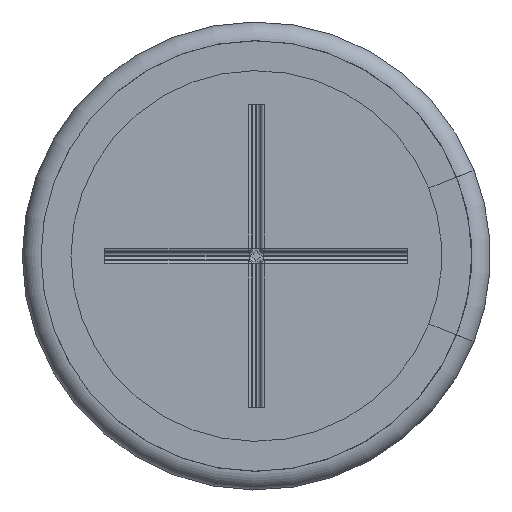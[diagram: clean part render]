
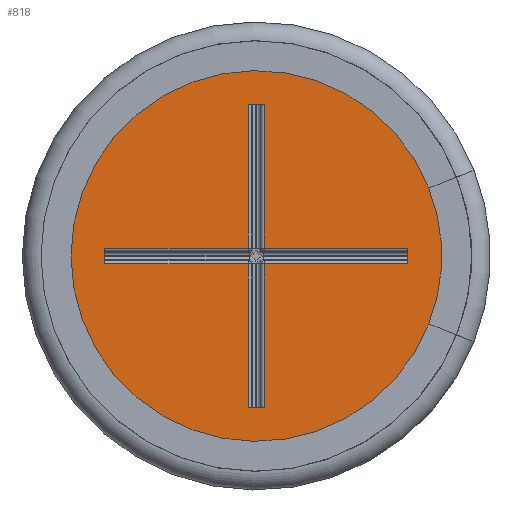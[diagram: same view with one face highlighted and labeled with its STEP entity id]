
A CAD part, front view. The second image highlights one B-rep face of the part: STEP entity #818.
In plain terms, the highlighted planar face has unit normal (0, -1, 0).
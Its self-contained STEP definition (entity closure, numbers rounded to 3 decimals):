
#144=FACE_BOUND('',#1121,.T.);
#145=FACE_BOUND('',#1122,.T.);
#769=PLANE('',#2869);
#818=ADVANCED_FACE('',(#144,#145),#769,.F.);
#1121=EDGE_LOOP('',(#1621,#1622,#1623,#1624,#1625,#1626,#1627,#1628,#1629,
#1630,#1631,#1632));
#1122=EDGE_LOOP('',(#1633));
#1271=LINE('',#4003,#1395);
#1272=LINE('',#4006,#1396);
#1273=LINE('',#4008,#1397);
#1274=LINE('',#4010,#1398);
#1275=LINE('',#4012,#1399);
#1276=LINE('',#4014,#1400);
#1277=LINE('',#4016,#1401);
#1278=LINE('',#4018,#1402);
#1279=LINE('',#4020,#1403);
#1280=LINE('',#4022,#1404);
#1281=LINE('',#4024,#1405);
#1282=LINE('',#4026,#1406);
#1395=VECTOR('',#3272,1.);
#1396=VECTOR('',#3273,1.);
#1397=VECTOR('',#3274,1.);
#1398=VECTOR('',#3275,1.);
#1399=VECTOR('',#3276,1.);
#1400=VECTOR('',#3277,1.);
#1401=VECTOR('',#3278,1.);
#1402=VECTOR('',#3279,1.);
#1403=VECTOR('',#3280,1.);
#1404=VECTOR('',#3281,1.);
#1405=VECTOR('',#3282,1.);
#1406=VECTOR('',#3283,1.);
#1621=ORIENTED_EDGE('',*,*,#2385,.F.);
#1622=ORIENTED_EDGE('',*,*,#2386,.T.);
#1623=ORIENTED_EDGE('',*,*,#2387,.T.);
#1624=ORIENTED_EDGE('',*,*,#2388,.F.);
#1625=ORIENTED_EDGE('',*,*,#2389,.T.);
#1626=ORIENTED_EDGE('',*,*,#2390,.T.);
#1627=ORIENTED_EDGE('',*,*,#2391,.T.);
#1628=ORIENTED_EDGE('',*,*,#2392,.T.);
#1629=ORIENTED_EDGE('',*,*,#2393,.T.);
#1630=ORIENTED_EDGE('',*,*,#2394,.T.);
#1631=ORIENTED_EDGE('',*,*,#2395,.T.);
#1632=ORIENTED_EDGE('',*,*,#2396,.T.);
#1633=ORIENTED_EDGE('',*,*,#2397,.T.);
#2165=VERTEX_POINT('',#4004);
#2166=VERTEX_POINT('',#4005);
#2167=VERTEX_POINT('',#4007);
#2168=VERTEX_POINT('',#4009);
#2169=VERTEX_POINT('',#4011);
#2170=VERTEX_POINT('',#4013);
#2171=VERTEX_POINT('',#4015);
#2172=VERTEX_POINT('',#4017);
#2173=VERTEX_POINT('',#4019);
#2174=VERTEX_POINT('',#4021);
#2175=VERTEX_POINT('',#4023);
#2176=VERTEX_POINT('',#4025);
#2177=VERTEX_POINT('',#4028);
#2385=EDGE_CURVE('',#2165,#2166,#1271,.T.);
#2386=EDGE_CURVE('',#2165,#2167,#1272,.T.);
#2387=EDGE_CURVE('',#2167,#2168,#1273,.T.);
#2388=EDGE_CURVE('',#2169,#2168,#1274,.T.);
#2389=EDGE_CURVE('',#2169,#2170,#1275,.T.);
#2390=EDGE_CURVE('',#2170,#2171,#1276,.T.);
#2391=EDGE_CURVE('',#2171,#2172,#1277,.T.);
#2392=EDGE_CURVE('',#2172,#2173,#1278,.T.);
#2393=EDGE_CURVE('',#2173,#2174,#1279,.T.);
#2394=EDGE_CURVE('',#2174,#2175,#1280,.T.);
#2395=EDGE_CURVE('',#2175,#2176,#1281,.T.);
#2396=EDGE_CURVE('',#2176,#2166,#1282,.T.);
#2397=EDGE_CURVE('',#2177,#2177,#2669,.T.);
#2669=CIRCLE('',#2868,5.75);
#2868=AXIS2_PLACEMENT_3D('',#4027,#3284,#3285);
#2869=AXIS2_PLACEMENT_3D('',#4029,#3286,#3287);
#3272=DIRECTION('',(-1.,0.,0.));
#3273=DIRECTION('',(0.,0.,-1.));
#3274=DIRECTION('',(1.,0.,0.));
#3275=DIRECTION('',(0.,0.,1.));
#3276=DIRECTION('',(-1.,0.,0.));
#3277=DIRECTION('',(0.,0.,-1.));
#3278=DIRECTION('',(-1.,0.,0.));
#3279=DIRECTION('',(0.,0.,1.));
#3280=DIRECTION('',(-1.,0.,0.));
#3281=DIRECTION('',(0.,0.,1.));
#3282=DIRECTION('',(1.,0.,0.));
#3283=DIRECTION('',(0.,0.,1.));
#3284=DIRECTION('',(0.,-1.,0.));
#3285=DIRECTION('',(0.,0.,-1.));
#3286=DIRECTION('',(0.,1.,0.));
#3287=DIRECTION('',(0.,0.,1.));
#4003=CARTESIAN_POINT('',(0.15,0.1,4.05));
#4004=CARTESIAN_POINT('',(0.212,0.1,4.05));
#4005=CARTESIAN_POINT('',(-0.212,0.1,4.05));
#4006=CARTESIAN_POINT('',(0.212,0.1,5.75));
#4007=CARTESIAN_POINT('',(0.212,0.1,0.212));
#4008=CARTESIAN_POINT('',(0.,0.1,0.212));
#4009=CARTESIAN_POINT('',(4.05,0.1,0.212));
#4010=CARTESIAN_POINT('',(4.05,0.1,-0.15));
#4011=CARTESIAN_POINT('',(4.05,0.1,-0.212));
#4012=CARTESIAN_POINT('',(0.,0.1,-0.212));
#4013=CARTESIAN_POINT('',(0.212,0.1,-0.212));
#4014=CARTESIAN_POINT('',(0.212,0.1,5.75));
#4015=CARTESIAN_POINT('',(0.212,0.1,-4.05));
#4016=CARTESIAN_POINT('',(0.15,0.1,-4.05));
#4017=CARTESIAN_POINT('',(-0.212,0.1,-4.05));
#4018=CARTESIAN_POINT('',(-0.212,0.1,5.75));
#4019=CARTESIAN_POINT('',(-0.212,0.1,-0.212));
#4020=CARTESIAN_POINT('',(0.,0.1,-0.212));
#4021=CARTESIAN_POINT('',(-4.05,0.1,-0.212));
#4022=CARTESIAN_POINT('',(-4.05,0.1,-0.15));
#4023=CARTESIAN_POINT('',(-4.05,0.1,0.212));
#4024=CARTESIAN_POINT('',(0.,0.1,0.212));
#4025=CARTESIAN_POINT('',(-0.212,0.1,0.212));
#4026=CARTESIAN_POINT('',(-0.212,0.1,5.75));
#4027=CARTESIAN_POINT('',(0.,0.1,0.));
#4028=CARTESIAN_POINT('',(0.,0.1,-5.75));
#4029=CARTESIAN_POINT('',(0.,0.1,5.75));
